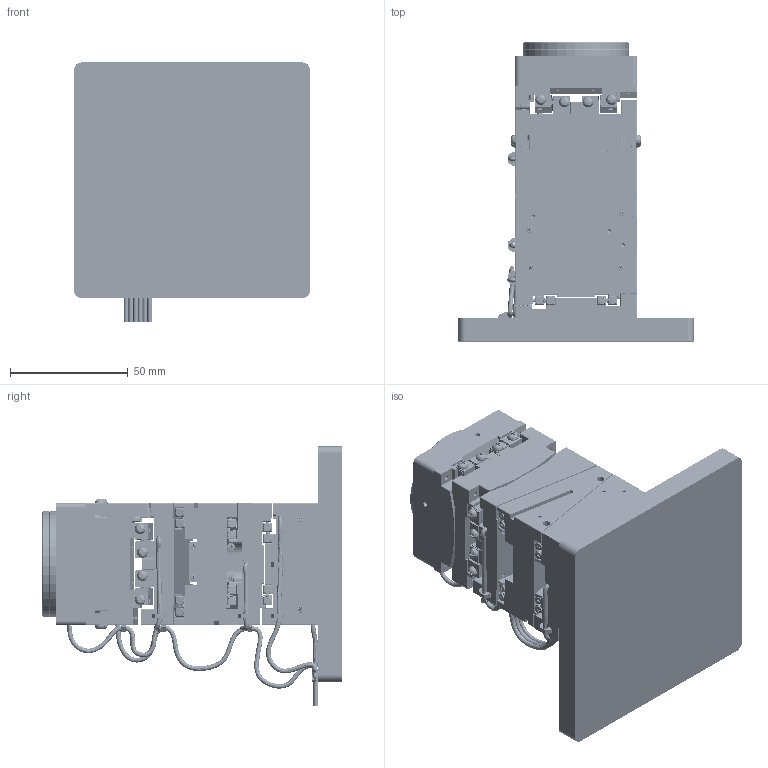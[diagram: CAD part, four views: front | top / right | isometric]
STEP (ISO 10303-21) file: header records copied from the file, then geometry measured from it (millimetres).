
FILE_DESCRIPTION (( 'STEP AP203' ), '1' );
FILE_NAME ('1X6-3.STEP', '2025-12-29T08:48:51', ( '' ), ( '' ), 'SwSTEP 2.0', 'SolidWorks 2022', '' );
FILE_SCHEMA (( 'CONFIG_CONTROL_DESIGN' ));
Products named in the file (1): 1X6-3
Bounding box: 100 x 127.16 x 110 mm (x, y, z)
Volume: 352368.2 mm3; surface area: 201772.1 mm2
Topology: 406 solids, 414 shells, 15466 faces, 37449 edges, 23083 vertices
Faces by surface type: plane 7785, cylinder 4465, cone 1745, torus 1144, sphere 259, bspline 68
Entity records: 462387 total; most frequent: CARTESIAN_POINT 98397, DIRECTION 78794, ORIENTED_EDGE 74280, EDGE_CURVE 37140, AXIS2_PLACEMENT_3D 29125, VERTEX_POINT 23075, VECTOR 20544, LINE 20544
